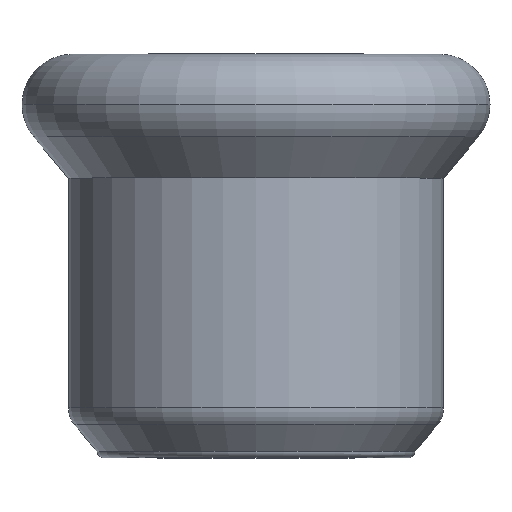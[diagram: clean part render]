
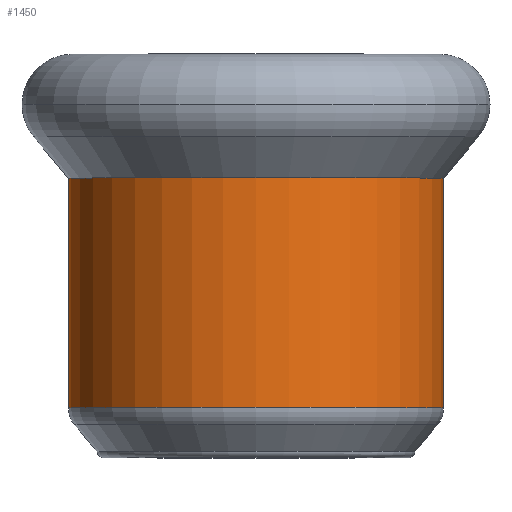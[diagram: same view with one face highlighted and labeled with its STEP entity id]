
A CAD part, top view. The second image highlights one B-rep face of the part: STEP entity #1450.
In plain terms, the highlighted cylindrical face has radius 10.625 mm (diameter 21.25 mm), a partial arc.
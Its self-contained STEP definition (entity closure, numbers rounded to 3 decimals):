
#800=CARTESIAN_POINT('',(-192.351,58.105,0.));
#810=VERTEX_POINT('',#800);
#990=CARTESIAN_POINT('',(-213.601,58.105,
0.));
#1000=VERTEX_POINT('',#990);
#1030=CARTESIAN_POINT('',(-202.976,58.105,0.));
#1040=DIRECTION('',(0.,1.,0.));
#1050=DIRECTION('',(-1.,0.,0.));
#1060=AXIS2_PLACEMENT_3D('',#1030,#1040,#1050);
#1070=CIRCLE('',#1060,10.625);
#1130=CARTESIAN_POINT('',(-202.976,51.34,0.));
#1140=DIRECTION('',(0.,-1.,0.));
#1150=DIRECTION('',(-1.,0.,0.));
#1160=AXIS2_PLACEMENT_3D('',#1130,#1140,#1150);
#1170=CYLINDRICAL_SURFACE('',#1160,10.625);
#1180=CARTESIAN_POINT('',(-213.601,51.34,0.));
#1190=DIRECTION('',(0.,-1.,0.));
#1200=VECTOR('',#1190,1.);
#1210=LINE('',#1180,#1200);
#1220=CARTESIAN_POINT('',(-213.601,45.103,0.));
#1230=VERTEX_POINT('',#1220);
#1240=EDGE_CURVE('',#1000,#1230,#1210,.T.);
#1250=ORIENTED_EDGE('',*,*,#1240,.T.);
#1260=EDGE_CURVE('',#1000,#810,#1070,.T.);
#1270=ORIENTED_EDGE('',*,*,#1260,.F.);
#1280=CARTESIAN_POINT('',(-192.351,51.34,
0.));
#1290=DIRECTION('',(0.,-1.,0.));
#1300=VECTOR('',#1290,1.);
#1310=LINE('',#1280,#1300);
#1320=CARTESIAN_POINT('',(-192.351,45.103,0.));
#1330=VERTEX_POINT('',#1320);
#1340=EDGE_CURVE('',#810,#1330,#1310,.T.);
#1350=ORIENTED_EDGE('',*,*,#1340,.F.);
#1360=CARTESIAN_POINT('',(-202.976,45.103,0.));
#1370=DIRECTION('',(0.,-1.,0.));
#1380=DIRECTION('',(-1.,0.,0.));
#1390=AXIS2_PLACEMENT_3D('',#1360,#1370,#1380);
#1400=CIRCLE('',#1390,10.625);
#1410=EDGE_CURVE('',#1330,#1230,#1400,.T.);
#1420=ORIENTED_EDGE('',*,*,#1410,.F.);
#1430=EDGE_LOOP('',(#1420,#1350,#1270,#1250));
#1440=FACE_OUTER_BOUND('',#1430,.T.);
#1450=ADVANCED_FACE('',(#1440),#1170,.T.);
